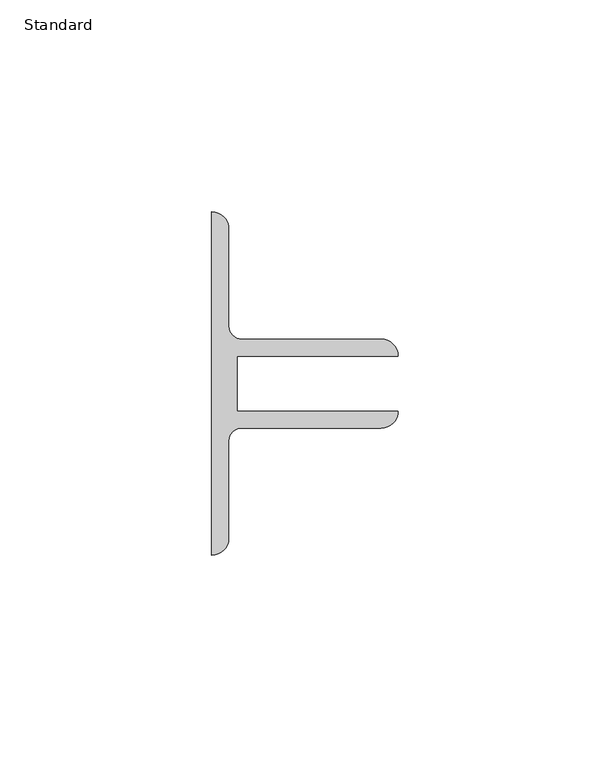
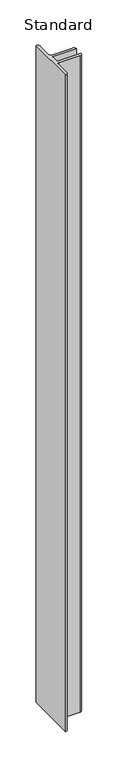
"""IFC4 building model written with IfcOpenShell, lengths in millimetres: furniture geometry, X_Partition-Channel-Duracube-Urinal Divider : Standard."""

from ifc_helpers import new_model, si_unit, point, frame, frame_2d, origin, place, context, project, spatial, polyline, circle_curve, trimmed, segment, composite_curve, outline, extrude, source, transform, mapped, element, save


def standard_87710da8(model_context):
    return source(origin(), model_context, "Body", "SweptSolid", [
        extrude(outline(composite_curve([segment(polyline([(28.7003264, 0.0), (28.7003264, -13.0), (66.7003264, -13.0)]), True, "CONTINUOUS"), segment(trimmed(circle_curve(frame_2d((62.7003264, -13.0)), 4.0), [point((66.7003264, -13.0))], [point((62.7003264, -17.0))], False, "CARTESIAN"), True, "CONTINUOUS"), segment(polyline([(62.7003264, -17.0), (29.7003264, -17.0)]), True, "CONTINUOUS"), segment(trimmed(circle_curve(frame_2d((29.7003264, -20.0)), 3.0), [point((29.7003264, -17.0))], [point((26.7003264, -20.0))], True, "CARTESIAN"), True, "CONTINUOUS"), segment(polyline([(26.7003264, -20.0), (26.7003264, -43.0)]), True, "CONTINUOUS"), segment(trimmed(circle_curve(frame_2d((22.7003264, -43.0)), 4.0), [point((26.7003264, -43.0))], [point((22.7003264, -47.0))], False, "CARTESIAN"), True, "CONTINUOUS"), segment(polyline([(22.7003264, -47.0), (22.7003264, 34.0)]), True, "CONTINUOUS"), segment(trimmed(circle_curve(frame_2d((22.7003264, 30.0)), 4.0), [point((22.7003264, 34.0))], [point((26.7003264, 30.0))], False, "CARTESIAN"), True, "CONTINUOUS"), segment(polyline([(26.7003264, 30.0), (26.7003264, 7.0)]), True, "CONTINUOUS"), segment(trimmed(circle_curve(frame_2d((29.7003264, 7.0)), 3.0), [point((26.7003264, 7.0))], [point((29.7003264, 4.0))], True, "CARTESIAN"), True, "CONTINUOUS"), segment(polyline([(29.7003264, 4.0), (62.7003264, 4.0)]), True, "CONTINUOUS"), segment(trimmed(circle_curve(frame_2d((62.7003264, 0.0)), 4.0), [point((62.7003264, 4.0))], [point((66.7003264, 0.0))], False, "CARTESIAN"), True, "CONTINUOUS"), segment(polyline([(66.7003264, 0.0), (28.7003264, 0.0)]), True, "CONTINUOUS")], self_intersect=False)), frame((0.0, 0.0, 300.0), z_axis=(0.0, 0.0, 1.0), x_axis=(1.0, 0.0, 0.0)), (0.0, 0.0, 1.0), 1100.0),
    ])


if __name__ == "__main__":
    model = new_model("IFC4")
    model_context = context("Model", 3, world=origin())
    ifc_project = project(units=[si_unit("LENGTHUNIT", "METRE", prefix="MILLI")], contexts=[model_context])
    site = spatial("IfcSite", under=ifc_project)
    building = spatial("IfcBuilding", under=site)
    placement = place(None, origin())
    standard_shape = standard_87710da8(model_context)
    element("IfcFurniture", 1, ObjectType="X_Partition-Channel-Duracube-Urinal Divider : Standard", at=placement, inside=building, context=model_context, shape_type="MappedRepresentation", body=[
        mapped(standard_shape, transform((0.0, 0.0, 0.0), x_axis=(1.0, 0.0, 0.0), y_axis=(0.0, 1.0, 0.0), z_axis=(0.0, 0.0, 1.0))),
    ])
    save(model, "model.ifc")
